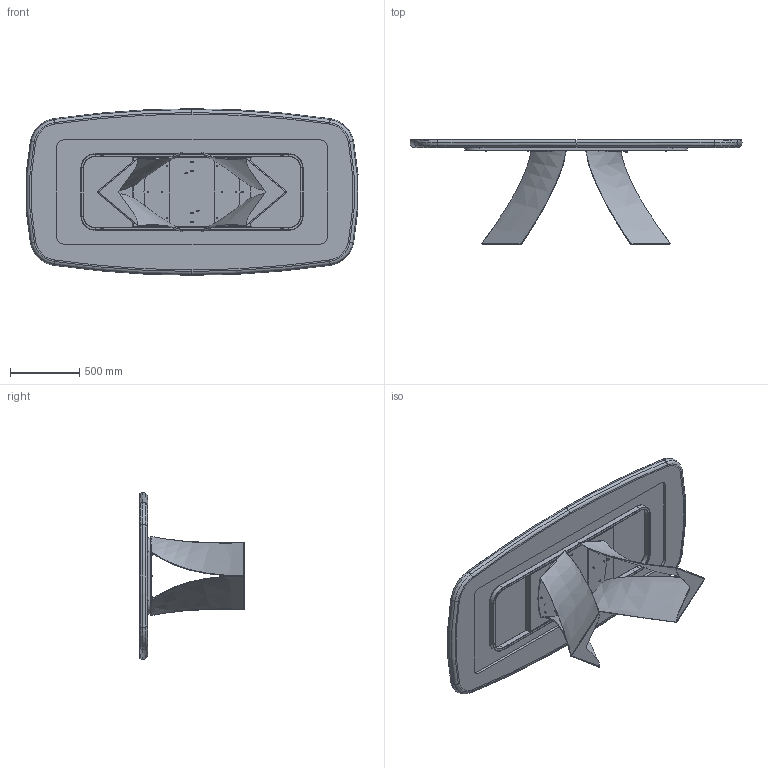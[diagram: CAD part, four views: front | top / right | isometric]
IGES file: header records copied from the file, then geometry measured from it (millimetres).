
Start section: SolidWorks IGES file using analytic representation for surfaces
Global section: file name: Y:\eforma\TECNICO\SOLIDWORKS\E-FORMA\1-TAVOLI\TWIST\TW42K_Twist_240X120_King Shaped.IGS; native system: SolidWorks 2022; preprocessor: SolidWorks 2022; author: eforma.tech; date: 240802.115123; units: millimetre
Bounding box: 2391.93 x 751.37 x 1200 mm (x, y, z)
Volume: 126654071.5 mm3; surface area: 15232611.8 mm2
Topology: 54 solids, 54 shells, 1354 faces, 3150 edges, 1884 vertices
Faces by surface type: revolution 794, plane 494, bspline 66
